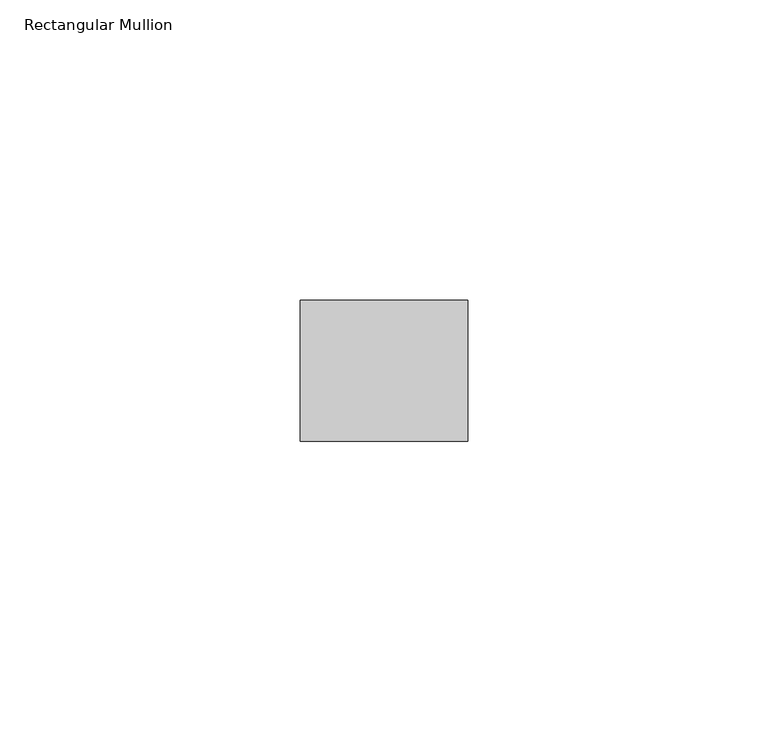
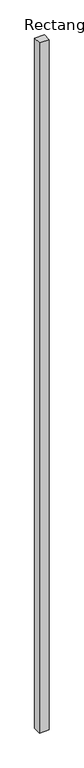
"""IFC4 building model written with IfcOpenShell, lengths in millimetres: member geometry, Rectangular Mullion : Lite Scale Glasing - Base Trim."""

from ifc_helpers import new_model, si_unit, frame, origin, place, context, project, spatial, polyline, outline, extrude, source, transform, mapped, element, save


def rectangular_mullion_5fc4769d(model_context):
    return source(origin(), model_context, "Body", "SweptSolid", [
        extrude(outline(polyline([(0.0, -11.7474999), (-27.94, -11.7474999), (-27.94, 11.7474999), (0.0, 11.7474999), (0.0, -11.7474999)])), frame((0.0, 0.0, -2096.1877663), z_axis=(0.0, 0.0, 1.0), x_axis=(1.0, 0.0, 0.0)), (0.0, 0.0, 1.0), 2096.1877663),
    ])


if __name__ == "__main__":
    model = new_model("IFC4")
    model_context = context("Model", 3, world=origin())
    ifc_project = project(units=[si_unit("LENGTHUNIT", "METRE", prefix="MILLI")], contexts=[model_context])
    site = spatial("IfcSite", under=ifc_project)
    building = spatial("IfcBuilding", under=site)
    placement = place(None, origin())
    rectangular_mullion_shape = rectangular_mullion_5fc4769d(model_context)
    element("IfcMember", 1, ObjectType="Rectangular Mullion : Lite Scale Glasing - Base Trim", at=placement, inside=building, context=model_context, shape_type="MappedRepresentation", body=[
        mapped(rectangular_mullion_shape, transform((0.0, 0.0, 0.0), x_axis=(1.0, 0.0, 0.0), y_axis=(0.0, 1.0, 0.0), z_axis=(0.0, 0.0, 1.0))),
    ])
    save(model, "model.ifc")
